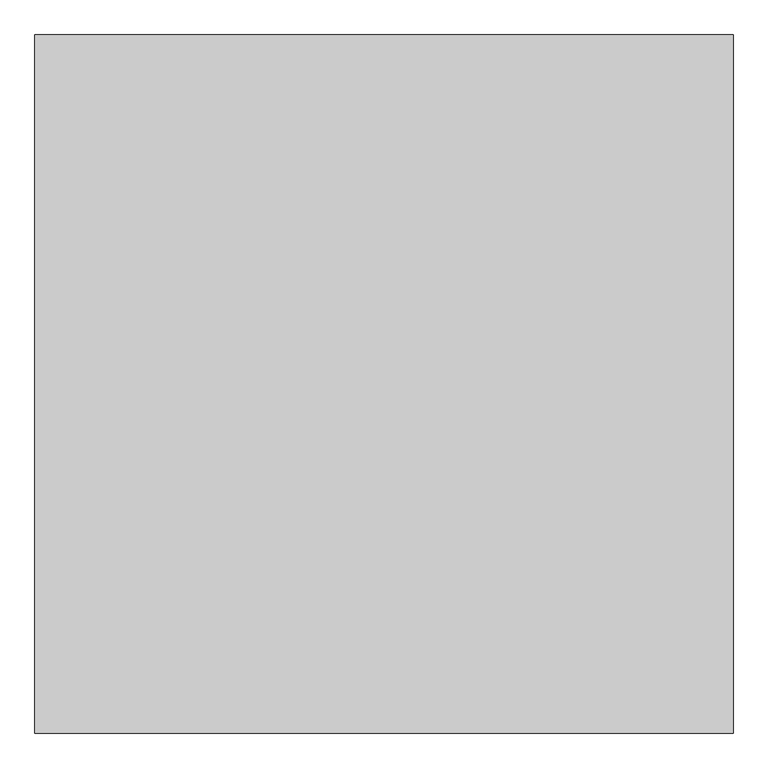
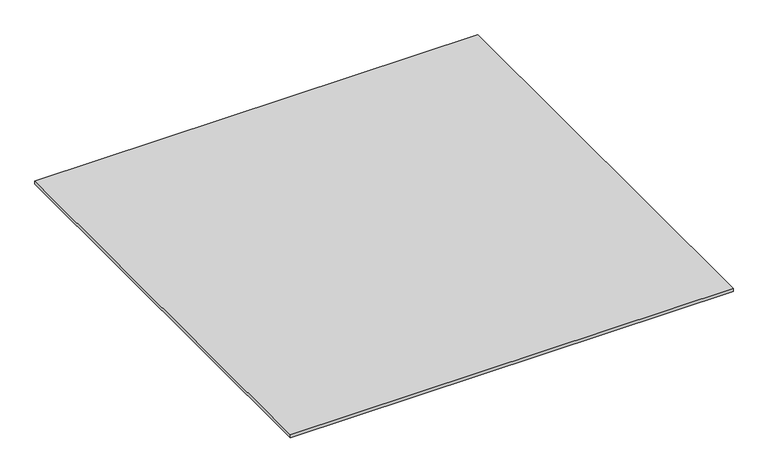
"""IFC4 building model written with IfcOpenShell, lengths in millimetres: furniture geometry, Pixel_Multiple : Pixel_Multiple."""

from ifc_helpers import new_model, si_unit, origin, origin_with_axes, place, context, project, spatial, polyline, outline, extrude, source, transform, mapped, element, save


def furniture_6c4caacf(model_context):
    return source(origin(), model_context, "Body", "SweptSolid", [
        extrude(outline(polyline([(5000.0, 0.0), (0.0, 0.0), (0.0, 5000.0), (5000.0, 5000.0), (5000.0, 0.0)])), origin_with_axes(), (0.0, 0.0, 1.0), 35.0),
    ])


if __name__ == "__main__":
    model = new_model("IFC4")
    model_context = context("Model", 3, world=origin())
    ifc_project = project(units=[si_unit("LENGTHUNIT", "METRE", prefix="MILLI")], contexts=[model_context])
    site = spatial("IfcSite", under=ifc_project)
    building = spatial("IfcBuilding", under=site)
    placement = place(None, origin())
    furniture_shape = furniture_6c4caacf(model_context)
    element("IfcFurniture", 1, ObjectType="Pixel_Multiple : Pixel_Multiple", at=placement, inside=building, context=model_context, shape_type="MappedRepresentation", body=[
        mapped(furniture_shape, transform((0.0, 0.0, 0.0), x_axis=(1.0, 0.0, 0.0), y_axis=(0.0, 1.0, 0.0), z_axis=(0.0, 0.0, 1.0))),
    ])
    save(model, "model.ifc")
